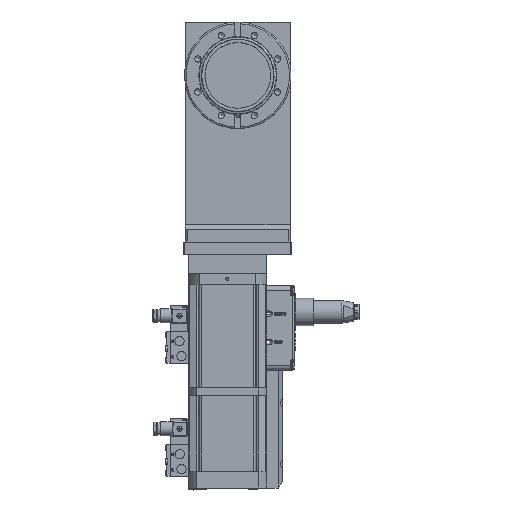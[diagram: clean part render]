
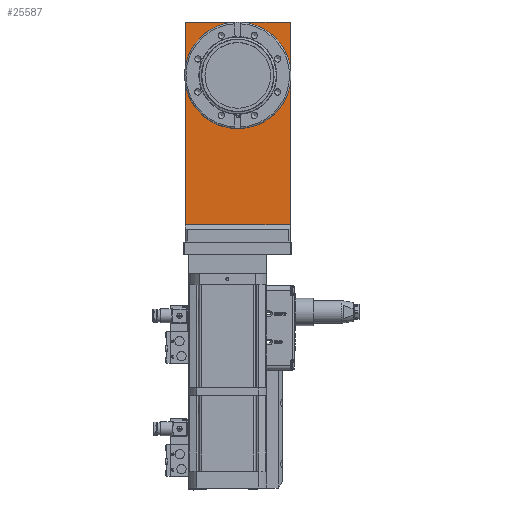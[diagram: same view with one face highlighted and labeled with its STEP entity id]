
A CAD part, top view. The second image highlights one B-rep face of the part: STEP entity #25587.
In plain terms, the highlighted planar face has unit normal (0, 0, 1).
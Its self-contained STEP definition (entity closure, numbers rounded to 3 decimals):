
#11886=LINE('',#77750,#15579);
#11891=LINE('',#77765,#15584);
#11893=LINE('',#77769,#15586);
#11896=LINE('',#77774,#15589);
#15579=VECTOR('',#65215,1.);
#15584=VECTOR('',#65222,1.);
#15586=VECTOR('',#65226,1.);
#15589=VECTOR('',#65231,1.);
#25587=ADVANCED_FACE('',(#29922,#29923),#28220,.T.);
#28220=PLANE('',#60056);
#29922=FACE_BOUND('',#31818,.T.);
#29923=FACE_BOUND('',#31819,.T.);
#31818=EDGE_LOOP('',(#36452,#36453,#36454,#36455));
#31819=EDGE_LOOP('',(#36456));
#36452=ORIENTED_EDGE('',*,*,#52721,.F.);
#36453=ORIENTED_EDGE('',*,*,#52727,.T.);
#36454=ORIENTED_EDGE('',*,*,#52732,.T.);
#36455=ORIENTED_EDGE('',*,*,#52729,.T.);
#36456=ORIENTED_EDGE('',*,*,#52734,.F.);
#47981=VERTEX_POINT('',#77749);
#47982=VERTEX_POINT('',#77751);
#47986=VERTEX_POINT('',#77764);
#47988=VERTEX_POINT('',#77770);
#47990=VERTEX_POINT('',#77779);
#52721=EDGE_CURVE('',#47981,#47982,#11886,.T.);
#52727=EDGE_CURVE('',#47981,#47986,#11891,.T.);
#52729=EDGE_CURVE('',#47988,#47982,#11893,.T.);
#52732=EDGE_CURVE('',#47986,#47988,#11896,.T.);
#52734=EDGE_CURVE('',#47990,#47990,#58317,.T.);
#58317=CIRCLE('',#60054,35.05);
#60054=AXIS2_PLACEMENT_3D('',#77778,#65236,#65237);
#60056=AXIS2_PLACEMENT_3D('',#77781,#65240,#65241);
#65215=DIRECTION('',(-1.,0.,0.));
#65222=DIRECTION('',(0.,1.,0.));
#65226=DIRECTION('',(0.,-1.,0.));
#65231=DIRECTION('',(-1.,0.,0.));
#65236=DIRECTION('',(0.,0.,1.));
#65237=DIRECTION('',(1.,0.,0.));
#65240=DIRECTION('',(0.,0.,1.));
#65241=DIRECTION('',(1.,0.,0.));
#77749=CARTESIAN_POINT('',(56.,-177.8,26.975));
#77750=CARTESIAN_POINT('',(0.,-177.8,26.975));
#77751=CARTESIAN_POINT('',(-56.,-177.8,26.975));
#77764=CARTESIAN_POINT('',(56.,57.05,26.975));
#77765=CARTESIAN_POINT('',(56.,-179.1,26.975));
#77769=CARTESIAN_POINT('',(-56.,57.05,26.975));
#77770=CARTESIAN_POINT('',(-56.,57.05,26.975));
#77774=CARTESIAN_POINT('',(56.,57.05,26.975));
#77778=CARTESIAN_POINT('',(0.,0.,
26.975));
#77779=CARTESIAN_POINT('',(35.05,0.,26.975));
#77781=CARTESIAN_POINT('',(0.,0.,
26.975));
